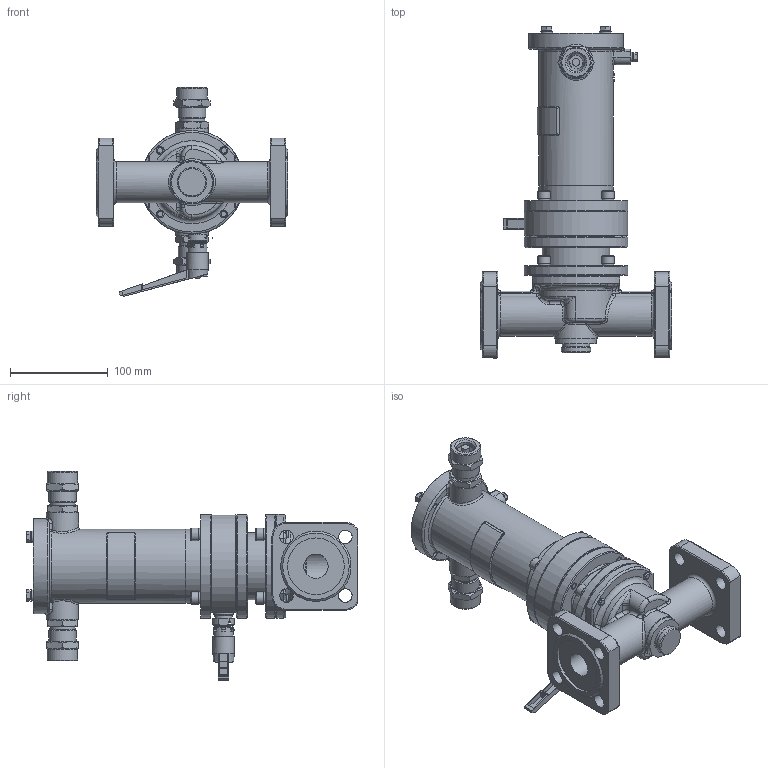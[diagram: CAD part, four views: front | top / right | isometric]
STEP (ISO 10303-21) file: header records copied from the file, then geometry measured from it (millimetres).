
FILE_DESCRIPTION(('STEP AP203'), '1');
FILE_NAME('捇迕-珅 DN25PN25', '', ('UNSPECIFIED'), ('UNSPECIFIED'), 'C3D Converter', 'C3D Toolkit', '');
FILE_SCHEMA(('CONFIG_CONTROL_DESIGN'));
Length unit declared in the file: millimetre
Bounding box: 196 x 339.7 x 214 mm (x, y, z)
Volume: 1350736.2 mm3; surface area: 357523.5 mm2
Topology: 4 solids, 13 shells, 2841 faces, 7622 edges, 4923 vertices
Faces by surface type: plane 1230, cylinder 1167, cone 176, extrusion 108, torus 85, bspline 69, sphere 6
Full cylindrical faces by diameter (mm): 1 x2, 2.459 x1, 3 x1, 3.1 x1, 3.242 x1, 3.5 x2, 4 x2, 4.134 x1, 4.3 x1, 4.917 x6, 5 x2, 6 x13, 6.3 x1, 6.5 x1, 6.647 x4, 7 x1, 8 x17, 8.5 x4, 9 x9, 10 x3, 11 x1, 12 x6, 12.5 x1, 13 x10, 13.8 x1, 14 x9, 15 x1, 16 x1, 17 x1, 17.8 x1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
Entity records: 136822 total; most frequent: CARTESIAN_POINT 43668, DIRECTION 14735, ORIENTED_EDGE 14492, EDGE_CURVE 7246, AXIS2_PLACEMENT_3D 5482, VERTEX_POINT 4903, VECTOR 3771, LINE 3663
